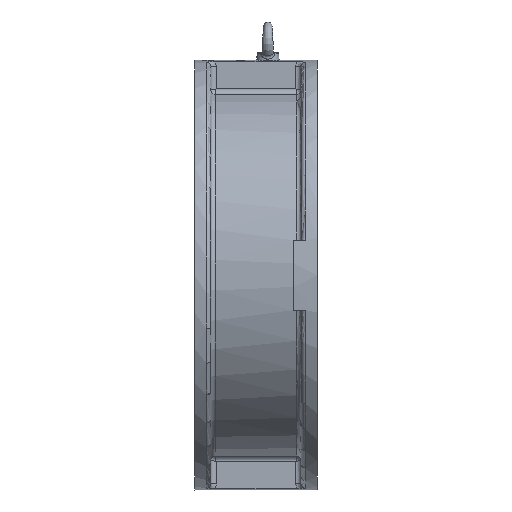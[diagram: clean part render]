
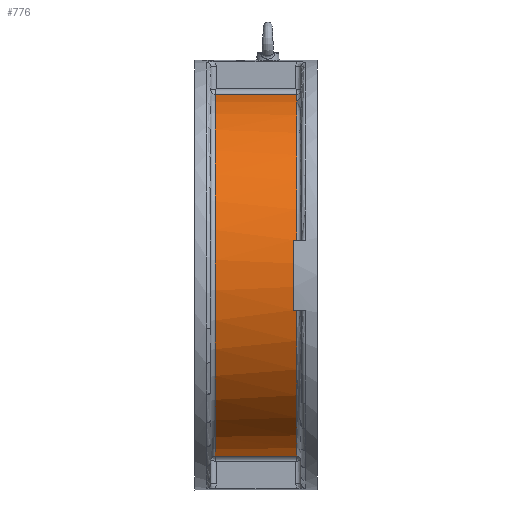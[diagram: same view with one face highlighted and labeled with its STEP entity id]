
A CAD part, left-side view. The second image highlights one B-rep face of the part: STEP entity #776.
In plain terms, the highlighted cylindrical face has radius 170 mm (diameter 340 mm), a partial arc.
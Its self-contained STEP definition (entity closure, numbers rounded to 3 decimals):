
#156 = EDGE_LOOP ( 'NONE', ( #2234, #903, #182, #5161, #2859, #5260, #6521, #5255, #5164, #6966, #5899, #3329 ) ) ;
#182 = ORIENTED_EDGE ( 'NONE', *, *, #3458, .F. ) ;
#200 = CARTESIAN_POINT ( 'NONE',  ( 3157.171, 1305.567, -167.957 ) ) ;
#218 = CARTESIAN_POINT ( 'NONE',  ( 3157.121, 1381.563, -167.949 ) ) ;
#322 = B_SPLINE_CURVE_WITH_KNOTS ( 'NONE', 3,
 ( #4478, #6891, #3831, #2013 ),
 .UNSPECIFIED., .F., .F.,
 ( 4, 4 ),
 ( 0., 0. ),
 .UNSPECIFIED. ) ;
#526 = VERTEX_POINT ( 'NONE', #7636 ) ;
#552 = CARTESIAN_POINT ( 'NONE',  ( 3016.585, 1305.563, -32.5 ) ) ;
#757 = CARTESIAN_POINT ( 'NONE',  ( 3157.07, 1305.563, -167.941 ) ) ;
#776 = ADVANCED_FACE ( 'NONE', ( #5027 ), #4841, .T. ) ;
#780 = CIRCLE ( 'NONE', #5452, 170. ) ;
#876 = LINE ( 'NONE', #1431, #1904 ) ;
#890 = DIRECTION ( 'NONE',  ( 0., -1., 0. ) ) ;
#903 = ORIENTED_EDGE ( 'NONE', *, *, #7259, .F. ) ;
#908 = CARTESIAN_POINT ( 'NONE',  ( 3157.121, 1305.563, 167.949 ) ) ;
#1019 = CARTESIAN_POINT ( 'NONE',  ( 3183.45, 1381.563, 0. ) ) ;
#1056 = EDGE_CURVE ( 'NONE', #3575, #2788, #876, .T. ) ;
#1110 = DIRECTION ( 'NONE',  ( 0., -1., 0. ) ) ;
#1282 = CARTESIAN_POINT ( 'NONE',  ( 3016.585, 1293.563, 32.5 ) ) ;
#1308 = DIRECTION ( 'NONE',  ( 0., 1., 0. ) ) ;
#1335 = VECTOR ( 'NONE', #1308, 1000. ) ;
#1431 = CARTESIAN_POINT ( 'NONE',  ( 3016.585, 1293.563, -32.5 ) ) ;
#1492 = CARTESIAN_POINT ( 'NONE',  ( 3157.221, 1381.551, -167.964 ) ) ;
#1510 = DIRECTION ( 'NONE',  ( 0., 1., 0. ) ) ;
#1620 = DIRECTION ( 'NONE',  ( 0., -1., 0. ) ) ;
#1664 = DIRECTION ( 'NONE',  ( 1., 0., 0. ) ) ;
#1885 = AXIS2_PLACEMENT_3D ( 'NONE', #6364, #1510, #6414 ) ;
#1904 = VECTOR ( 'NONE', #2642, 1000. ) ;
#2013 = CARTESIAN_POINT ( 'NONE',  ( 3157.07, 1381.563, 167.941 ) ) ;
#2147 = VERTEX_POINT ( 'NONE', #6750 ) ;
#2155 = CARTESIAN_POINT ( 'NONE',  ( 3157.07, 1305.563, 167.941 ) ) ;
#2234 = ORIENTED_EDGE ( 'NONE', *, *, #4662, .T. ) ;
#2268 = CARTESIAN_POINT ( 'NONE',  ( 3183.45, 1305.563, 0. ) ) ;
#2375 = VERTEX_POINT ( 'NONE', #757 ) ;
#2449 = DIRECTION ( 'NONE',  ( 1., 0., 0. ) ) ;
#2495 = VERTEX_POINT ( 'NONE', #3812 ) ;
#2642 = DIRECTION ( 'NONE',  ( 0., 1., 0. ) ) ;
#2724 = CARTESIAN_POINT ( 'NONE',  ( 3157.171, 1305.567, 167.957 ) ) ;
#2788 = VERTEX_POINT ( 'NONE', #7738 ) ;
#2859 = ORIENTED_EDGE ( 'NONE', *, *, #3188, .T. ) ;
#2877 = VERTEX_POINT ( 'NONE', #6659 ) ;
#3113 = VECTOR ( 'NONE', #5105, 1000. ) ;
#3188 = EDGE_CURVE ( 'NONE', #5321, #3863, #6358, .T. ) ;
#3235 = B_SPLINE_CURVE_WITH_KNOTS ( 'NONE', 3,
 ( #3648, #218, #3312, #1492 ),
 .UNSPECIFIED., .F., .F.,
 ( 4, 4 ),
 ( 0., 0. ),
 .UNSPECIFIED. ) ;
#3312 = CARTESIAN_POINT ( 'NONE',  ( 3157.171, 1381.559, -167.957 ) ) ;
#3329 = ORIENTED_EDGE ( 'NONE', *, *, #1056, .T. ) ;
#3434 = EDGE_CURVE ( 'NONE', #2147, #2375, #3439, .T. ) ;
#3439 = B_SPLINE_CURVE_WITH_KNOTS ( 'NONE', 3,
 ( #5666, #200, #7772, #5237 ),
 .UNSPECIFIED., .F., .F.,
 ( 4, 4 ),
 ( 0., 0. ),
 .UNSPECIFIED. ) ;
#3458 = EDGE_CURVE ( 'NONE', #7755, #2877, #3962, .T. ) ;
#3554 = CARTESIAN_POINT ( 'NONE',  ( 3157.221, 1279.568, -167.964 ) ) ;
#3575 = VERTEX_POINT ( 'NONE', #552 ) ;
#3584 = EDGE_CURVE ( 'NONE', #5267, #526, #3235, .T. ) ;
#3619 = AXIS2_PLACEMENT_3D ( 'NONE', #4741, #1110, #1664 ) ;
#3626 = EDGE_CURVE ( 'NONE', #526, #2147, #6810, .T. ) ;
#3648 = CARTESIAN_POINT ( 'NONE',  ( 3157.07, 1381.563, -167.941 ) ) ;
#3706 = EDGE_CURVE ( 'NONE', #7755, #5321, #7586, .T. ) ;
#3812 = CARTESIAN_POINT ( 'NONE',  ( 3157.07, 1381.563, 167.941 ) ) ;
#3831 = CARTESIAN_POINT ( 'NONE',  ( 3157.121, 1381.563, 167.949 ) ) ;
#3863 = VERTEX_POINT ( 'NONE', #6459 ) ;
#3962 = CIRCLE ( 'NONE', #7521, 170. ) ;
#4012 = CARTESIAN_POINT ( 'NONE',  ( 3157.07, 1381.563, -167.941 ) ) ;
#4150 = VECTOR ( 'NONE', #890, 1000. ) ;
#4305 = EDGE_CURVE ( 'NONE', #2495, #5267, #780, .T. ) ;
#4366 = CIRCLE ( 'NONE', #1885, 170. ) ;
#4380 = CARTESIAN_POINT ( 'NONE',  ( 3016.585, 1308.563, 32.5 ) ) ;
#4478 = CARTESIAN_POINT ( 'NONE',  ( 3157.221, 1381.551, 167.964 ) ) ;
#4481 = CARTESIAN_POINT ( 'NONE',  ( 3157.221, 1305.575, 167.964 ) ) ;
#4634 = VERTEX_POINT ( 'NONE', #4380 ) ;
#4662 = EDGE_CURVE ( 'NONE', #2788, #4634, #4366, .T. ) ;
#4725 = DIRECTION ( 'NONE',  ( 1., 0., 0. ) ) ;
#4741 = CARTESIAN_POINT ( 'NONE',  ( 3183.45, 1305.563, 0. ) ) ;
#4841 = CYLINDRICAL_SURFACE ( 'NONE', #7660, 170. ) ;
#4842 = CARTESIAN_POINT ( 'NONE',  ( 3183.45, 1279.568, 0. ) ) ;
#5027 = FACE_OUTER_BOUND ( 'NONE', #156, .T. ) ;
#5078 = CARTESIAN_POINT ( 'NONE',  ( 3157.221, 1279.568, 167.964 ) ) ;
#5105 = DIRECTION ( 'NONE',  ( 0., 1., 0. ) ) ;
#5161 = ORIENTED_EDGE ( 'NONE', *, *, #3706, .T. ) ;
#5164 = ORIENTED_EDGE ( 'NONE', *, *, #3626, .T. ) ;
#5212 = CARTESIAN_POINT ( 'NONE',  ( 3157.221, 1305.575, 167.964 ) ) ;
#5237 = CARTESIAN_POINT ( 'NONE',  ( 3157.07, 1305.563, -167.941 ) ) ;
#5255 = ORIENTED_EDGE ( 'NONE', *, *, #3584, .T. ) ;
#5260 = ORIENTED_EDGE ( 'NONE', *, *, #6842, .T. ) ;
#5267 = VERTEX_POINT ( 'NONE', #4012 ) ;
#5321 = VERTEX_POINT ( 'NONE', #5212 ) ;
#5452 = AXIS2_PLACEMENT_3D ( 'NONE', #1019, #1620, #5812 ) ;
#5666 = CARTESIAN_POINT ( 'NONE',  ( 3157.221, 1305.575, -167.964 ) ) ;
#5736 = CARTESIAN_POINT ( 'NONE',  ( 3157.07, 1305.563, 167.941 ) ) ;
#5812 = DIRECTION ( 'NONE',  ( 1., 0., 0. ) ) ;
#5899 = ORIENTED_EDGE ( 'NONE', *, *, #7483, .F. ) ;
#6090 = DIRECTION ( 'NONE',  ( 0., -1., 0. ) ) ;
#6159 = CIRCLE ( 'NONE', #3619, 170. ) ;
#6358 = LINE ( 'NONE', #5078, #3113 ) ;
#6364 = CARTESIAN_POINT ( 'NONE',  ( 3183.45, 1308.563, 0. ) ) ;
#6414 = DIRECTION ( 'NONE',  ( -1., 0., 0. ) ) ;
#6459 = CARTESIAN_POINT ( 'NONE',  ( 3157.221, 1381.551, 167.964 ) ) ;
#6521 = ORIENTED_EDGE ( 'NONE', *, *, #4305, .T. ) ;
#6659 = CARTESIAN_POINT ( 'NONE',  ( 3016.585, 1305.563, 32.5 ) ) ;
#6750 = CARTESIAN_POINT ( 'NONE',  ( 3157.221, 1305.575, -167.964 ) ) ;
#6810 = LINE ( 'NONE', #3554, #4150 ) ;
#6831 = LINE ( 'NONE', #1282, #1335 ) ;
#6842 = EDGE_CURVE ( 'NONE', #3863, #2495, #322, .T. ) ;
#6891 = CARTESIAN_POINT ( 'NONE',  ( 3157.171, 1381.559, 167.957 ) ) ;
#6966 = ORIENTED_EDGE ( 'NONE', *, *, #3434, .T. ) ;
#7066 = DIRECTION ( 'NONE',  ( 0., -1., 0. ) ) ;
#7259 = EDGE_CURVE ( 'NONE', #2877, #4634, #6831, .T. ) ;
#7483 = EDGE_CURVE ( 'NONE', #3575, #2375, #6159, .T. ) ;
#7521 = AXIS2_PLACEMENT_3D ( 'NONE', #2268, #7066, #4725 ) ;
#7586 = B_SPLINE_CURVE_WITH_KNOTS ( 'NONE', 3,
 ( #2155, #908, #2724, #4481 ),
 .UNSPECIFIED., .F., .F.,
 ( 4, 4 ),
 ( 0., 0. ),
 .UNSPECIFIED. ) ;
#7636 = CARTESIAN_POINT ( 'NONE',  ( 3157.221, 1381.551, -167.964 ) ) ;
#7660 = AXIS2_PLACEMENT_3D ( 'NONE', #4842, #6090, #2449 ) ;
#7738 = CARTESIAN_POINT ( 'NONE',  ( 3016.585, 1308.563, -32.5 ) ) ;
#7755 = VERTEX_POINT ( 'NONE', #5736 ) ;
#7772 = CARTESIAN_POINT ( 'NONE',  ( 3157.121, 1305.563, -167.949 ) ) ;
